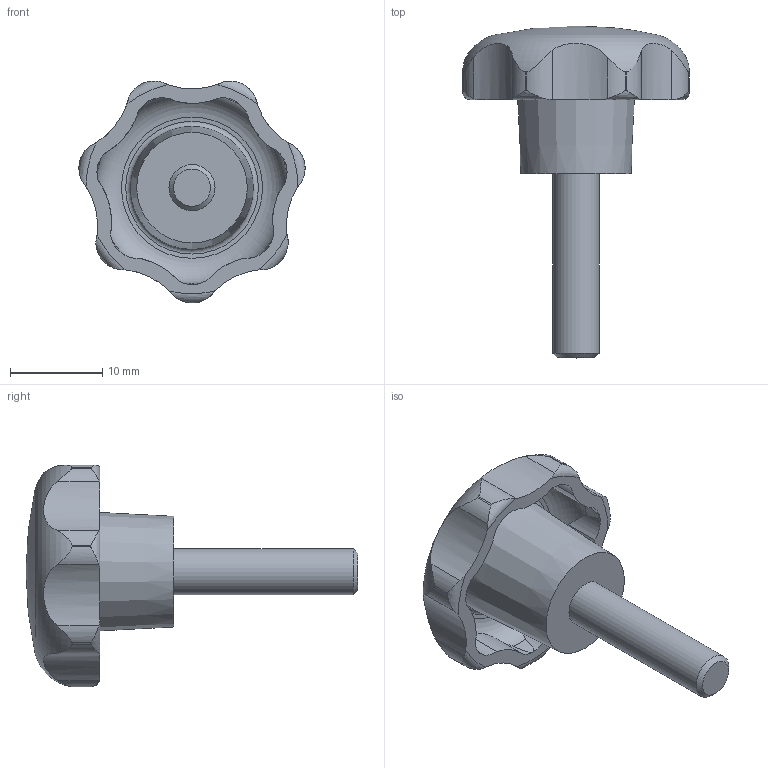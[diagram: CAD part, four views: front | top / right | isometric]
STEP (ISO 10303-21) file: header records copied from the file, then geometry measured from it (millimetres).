
FILE_DESCRIPTION( ( 'STEP AP203' ), '1' );
FILE_NAME( 'C:/Temp/Ganter_Step_05_03_2020/data/2_2/gn_6336_4/gn_6336_4_st/Star knob GN 6336.4-ST-25-M5-20.stp', '2020-03-05T12:07:13', ( 'License CC BY-ND 4.0' ), ( 'CADENAS' ), ' ', 'PARTsolutions', ' ' );
FILE_SCHEMA( ( 'CONFIG_CONTROL_DESIGN' ) );
Length unit declared in the file: millimetre
Products named in the file (1): _Star knob GN 6336.4-ST-25-M5-20
Bounding box: 24.52 x 36 x 24.06 mm (x, y, z)
Volume: 3519.5 mm3; surface area: 2329.4 mm2
Topology: 1 solids, 1 shells, 74 faces, 209 edges, 138 vertices
Faces by surface type: cylinder 50, torus 10, cone 10, plane 3, sphere 1
Full cylindrical faces by diameter (mm): 5 x1
Entity records: 3129 total; most frequent: CARTESIAN_POINT 1317, ORIENTED_EDGE 394, DIRECTION 336, EDGE_CURVE 197, AXIS2_PLACEMENT_3D 147, VERTEX_POINT 135, EDGE_LOOP 83, B_SPLINE_CURVE_WITH_KNOTS 83
